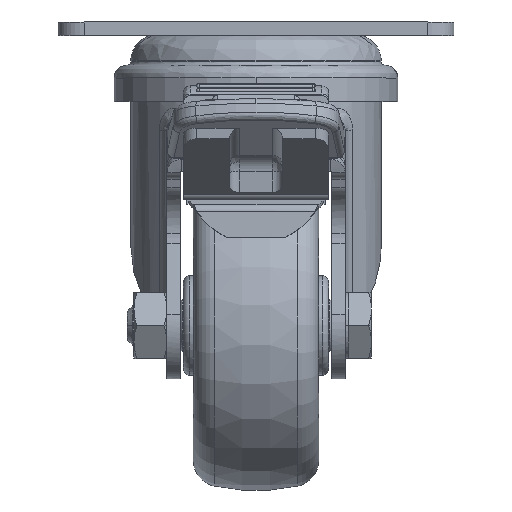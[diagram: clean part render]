
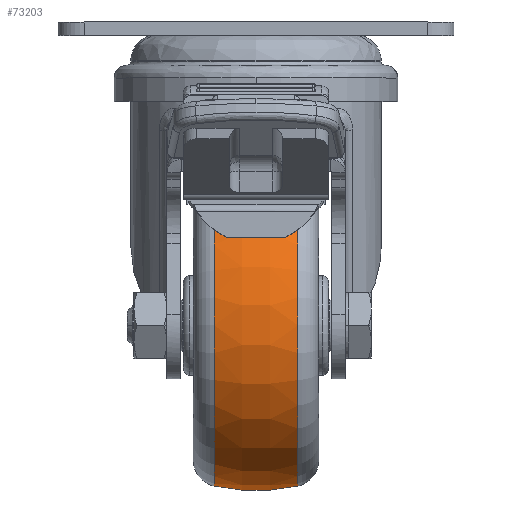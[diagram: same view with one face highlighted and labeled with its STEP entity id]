
A CAD part, top view. The second image highlights one B-rep face of the part: STEP entity #73203.
In plain terms, the highlighted toroidal (fillet/blend) face has major radius 5 mm and minor radius 30 mm.
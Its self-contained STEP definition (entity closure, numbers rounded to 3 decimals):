
#1852 = TOROIDAL_SURFACE ( 'NONE', #82523, -5., 30. ) ;
#1862 = FACE_OUTER_BOUND ( 'NONE', #49965, .T. ) ;
#3924 = CIRCLE ( 'NONE', #9281, 24.321 ) ;
#3934 = CIRCLE ( 'NONE', #9284, 24.321 ) ;
#3935 = CIRCLE ( 'NONE', #9282, 30. ) ;
#3939 = CIRCLE ( 'NONE', #9286, 30. ) ;
#9281 = AXIS2_PLACEMENT_3D ( 'NONE', #77393, #77399, #77400 ) ;
#9282 = AXIS2_PLACEMENT_3D ( 'NONE', #77410, #77412, #77413 ) ;
#9284 = AXIS2_PLACEMENT_3D ( 'NONE', #77402, #77408, #77409 ) ;
#9286 = AXIS2_PLACEMENT_3D ( 'NONE', #77407, #77415, #77416 ) ;
#21135 = VERTEX_POINT ( 'NONE', #66155 ) ;
#21159 = VERTEX_POINT ( 'NONE', #66131 ) ;
#21175 = VERTEX_POINT ( 'NONE', #66115 ) ;
#21257 = VERTEX_POINT ( 'NONE', #66033 ) ;
#27926 = DIRECTION ( 'NONE',  ( -1., 0., 0. ) ) ;
#27934 = CARTESIAN_POINT ( 'NONE',  ( 0., 0., 0. ) ) ;
#27946 = DIRECTION ( 'NONE',  ( 0., 0., 1. ) ) ;
#49965 = EDGE_LOOP ( 'NONE', ( #55655, #55652, #55651, #55650 ) ) ;
#55650 = ORIENTED_EDGE ( 'NONE', *, *, #82295, .F. ) ;
#55651 = ORIENTED_EDGE ( 'NONE', *, *, #82290, .F. ) ;
#55652 = ORIENTED_EDGE ( 'NONE', *, *, #82294, .T. ) ;
#55655 = ORIENTED_EDGE ( 'NONE', *, *, #82293, .T. ) ;
#66033 = CARTESIAN_POINT ( 'NONE',  ( 6.346, 0., 24.321 ) ) ;
#66115 = CARTESIAN_POINT ( 'NONE',  ( 6.346, 0., -24.321 ) ) ;
#66131 = CARTESIAN_POINT ( 'NONE',  ( -6.346, 0., -24.321 ) ) ;
#66155 = CARTESIAN_POINT ( 'NONE',  ( -6.346, 0., 24.321 ) ) ;
#73203 = ADVANCED_FACE ( 'NONE', ( #1862 ), #1852, .T. ) ;
#77393 = CARTESIAN_POINT ( 'NONE',  ( -6.346, 0., 0. ) ) ;
#77399 = DIRECTION ( 'NONE',  ( -1., 0., 0. ) ) ;
#77400 = DIRECTION ( 'NONE',  ( 0., 0., 1. ) ) ;
#77402 = CARTESIAN_POINT ( 'NONE',  ( 6.346, 0., 0. ) ) ;
#77407 = CARTESIAN_POINT ( 'NONE',  ( 0., 0., -5. ) ) ;
#77408 = DIRECTION ( 'NONE',  ( -1., 0., 0. ) ) ;
#77409 = DIRECTION ( 'NONE',  ( 0., 0., 1. ) ) ;
#77410 = CARTESIAN_POINT ( 'NONE',  ( 0., 0., 5. ) ) ;
#77412 = DIRECTION ( 'NONE',  ( 0., 1., 0. ) ) ;
#77413 = DIRECTION ( 'NONE',  ( 0., 0., 1. ) ) ;
#77415 = DIRECTION ( 'NONE',  ( 0., -1., 0. ) ) ;
#77416 = DIRECTION ( 'NONE',  ( 0., 0., -1. ) ) ;
#82290 = EDGE_CURVE ( 'NONE', #21135, #21159, #3924, .T. ) ;
#82293 = EDGE_CURVE ( 'NONE', #21257, #21175, #3934, .T. ) ;
#82294 = EDGE_CURVE ( 'NONE', #21175, #21159, #3935, .T. ) ;
#82295 = EDGE_CURVE ( 'NONE', #21257, #21135, #3939, .T. ) ;
#82523 = AXIS2_PLACEMENT_3D ( 'NONE', #27934, #27926, #27946 ) ;
